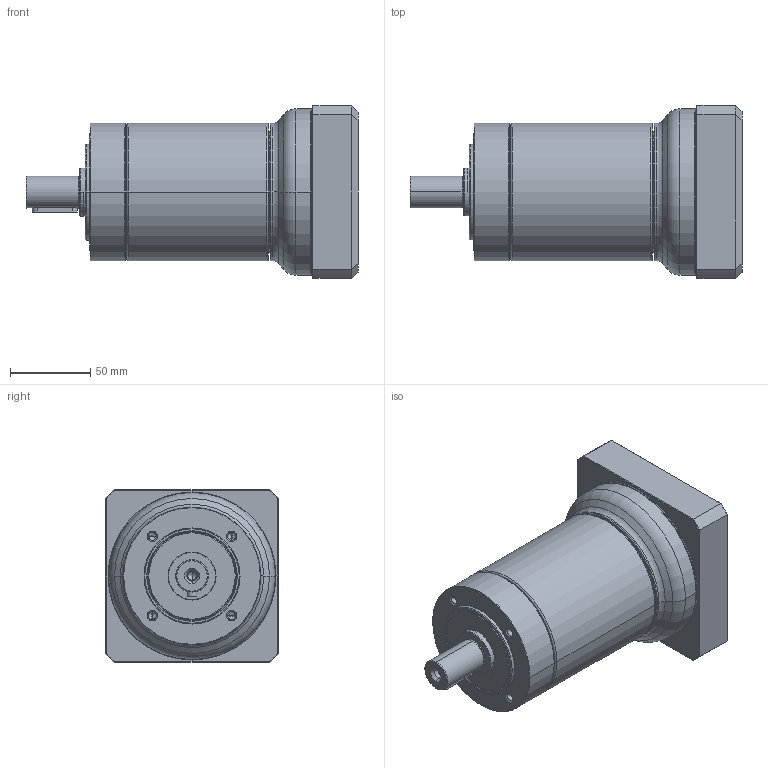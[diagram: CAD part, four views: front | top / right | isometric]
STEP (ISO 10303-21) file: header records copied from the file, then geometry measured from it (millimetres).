
FILE_DESCRIPTION((''),'2;1');
FILE_NAME('PG2-080_3ST_28-P0411600101_ASM','2016-04-15T',('d01943'),(''),'PRO/ENGINEER BY PARAMETRIC TECHNOLOGY CORPORATION, 2008410','PRO/ENGINEER BY PARAMETRIC TECHNOLOGY CORPORATION, 2008410','');
FILE_SCHEMA(('CONFIG_CONTROL_DESIGN'));
Length unit declared in the file: millimetre
Products named in the file (9): P1325310001; P0273300001; P1324300301; P0350301103; P0411600101; P0503600008; P0941303001; P1702500001; PG2-080_3ST_28-P0411600101_ASM
Assembly tree (8 placements, depth 2):
  PG2-080_3ST_28-P0411600101_ASM
    P1325310001
    P0273300001
    P1324300301
    P0350301103
    P0411600101
    P0503600008
    P0941303001
    P1702500001
Bounding box: 207.5 x 108 x 108 mm (x, y, z)
Volume: 749021 mm3; surface area: 177731.8 mm2
Topology: 8 solids, 9 shells, 471 faces, 1037 edges, 597 vertices
Faces by surface type: cone 142, cylinder 137, torus 96, plane 80, bspline 16
Entity records: 17534 total; most frequent: CARTESIAN_POINT 6935, DIRECTION 2415, ORIENTED_EDGE 2006, AXIS2_PLACEMENT_3D 1035, EDGE_CURVE 1003, VERTEX_POINT 597, CIRCLE 563, EDGE_LOOP 536
